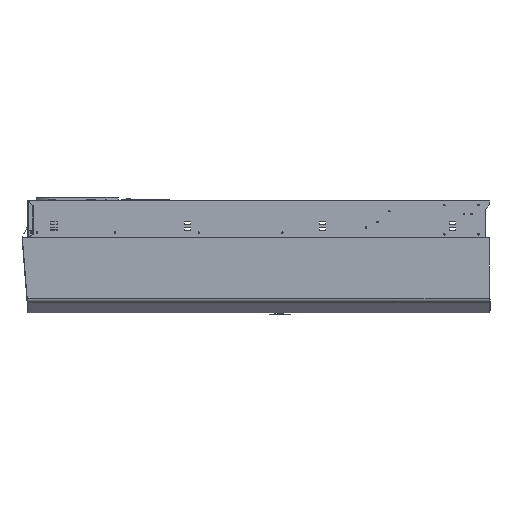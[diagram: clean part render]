
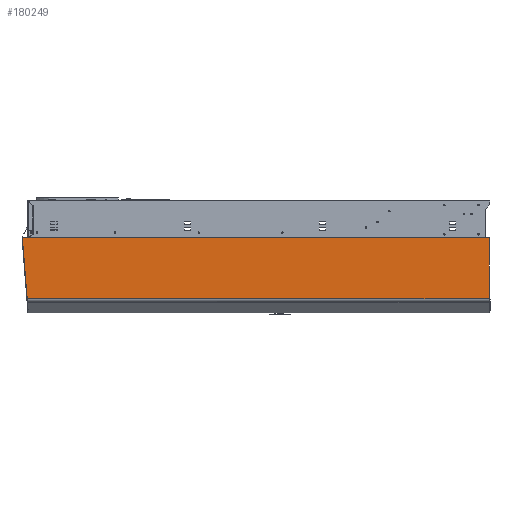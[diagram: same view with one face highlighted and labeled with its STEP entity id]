
A CAD part, left-side view. The second image highlights one B-rep face of the part: STEP entity #180249.
In plain terms, the highlighted planar face has unit normal (-1, 0, 0).
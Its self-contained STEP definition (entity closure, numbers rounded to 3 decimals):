
#273 = LINE ( 'NONE', #214579, #218406 ) ;
#1569 = VERTEX_POINT ( 'NONE', #202060 ) ;
#3257 = VECTOR ( 'NONE', #115427, 1000. ) ;
#16560 = VERTEX_POINT ( 'NONE', #78699 ) ;
#18067 = CARTESIAN_POINT ( 'NONE',  ( -242.471, 762.382, -323.137 ) ) ;
#18857 = EDGE_CURVE ( 'NONE', #155237, #232623, #59367, .T. ) ;
#22707 = DIRECTION ( 'NONE',  ( 0., 1., 0. ) ) ;
#26388 = CARTESIAN_POINT ( 'NONE',  ( -242.471, 778.194, -122.233 ) ) ;
#29367 = ORIENTED_EDGE ( 'NONE', *, *, #131116, .F. ) ;
#30401 = CARTESIAN_POINT ( 'NONE',  ( -242.471, 776.888, -145.195 ) ) ;
#35934 = AXIS2_PLACEMENT_3D ( 'NONE', #236645, #67636, #131416 ) ;
#38484 = FACE_OUTER_BOUND ( 'NONE', #253828, .T. ) ;
#39282 = EDGE_CURVE ( 'NONE', #39911, #1569, #44257, .T. ) ;
#39911 = VERTEX_POINT ( 'NONE', #220038 ) ;
#44257 = LINE ( 'NONE', #30401, #262320 ) ;
#50736 = DIRECTION ( 'NONE',  ( 0., -0.078, -0.997 ) ) ;
#52624 = ORIENTED_EDGE ( 'NONE', *, *, #58785, .F. ) ;
#58785 = EDGE_CURVE ( 'NONE', #39911, #228497, #273, .T. ) ;
#59228 = ORIENTED_EDGE ( 'NONE', *, *, #157009, .F. ) ;
#59367 = LINE ( 'NONE', #241937, #3257 ) ;
#62076 = CARTESIAN_POINT ( 'NONE',  ( -242.471, -757.162, -122.233 ) ) ;
#66486 = EDGE_CURVE ( 'NONE', #16560, #230008, #84592, .T. ) ;
#67636 = DIRECTION ( 'NONE',  ( 1., 0., 0. ) ) ;
#74568 = VERTEX_POINT ( 'NONE', #26388 ) ;
#78699 = CARTESIAN_POINT ( 'NONE',  ( -242.471, 776.39, -145.156 ) ) ;
#84592 = LINE ( 'NONE', #91383, #186923 ) ;
#90098 = LINE ( 'NONE', #125308, #189255 ) ;
#91383 = CARTESIAN_POINT ( 'NONE',  ( -242.471, 762.382, -323.137 ) ) ;
#115427 = DIRECTION ( 'NONE',  ( 0., 0., -1. ) ) ;
#116086 = LINE ( 'NONE', #178462, #159023 ) ;
#123420 = CARTESIAN_POINT ( 'NONE',  ( -242.471, 776.782, -140.172 ) ) ;
#125308 = CARTESIAN_POINT ( 'NONE',  ( -242.471, 757.838, -322.853 ) ) ;
#128015 = DIRECTION ( 'NONE',  ( 0., -0.078, -0.997 ) ) ;
#130503 = VECTOR ( 'NONE', #268664, 1000. ) ;
#131116 = EDGE_CURVE ( 'NONE', #16560, #1569, #249436, .T. ) ;
#131416 = DIRECTION ( 'NONE',  ( 0., 0., -1. ) ) ;
#137834 = VECTOR ( 'NONE', #128015, 1000. ) ;
#143182 = CARTESIAN_POINT ( 'NONE',  ( -242.471, 776.39, -145.156 ) ) ;
#152285 = ORIENTED_EDGE ( 'NONE', *, *, #152326, .T. ) ;
#152326 = EDGE_CURVE ( 'NONE', #74568, #228497, #250108, .T. ) ;
#155237 = VERTEX_POINT ( 'NONE', #62076 ) ;
#156852 = ORIENTED_EDGE ( 'NONE', *, *, #39282, .T. ) ;
#157009 = EDGE_CURVE ( 'NONE', #232623, #230008, #90098, .T. ) ;
#159023 = VECTOR ( 'NONE', #199736, 1000. ) ;
#159264 = EDGE_CURVE ( 'NONE', #74568, #155237, #116086, .T. ) ;
#178462 = CARTESIAN_POINT ( 'NONE',  ( -242.471, 757.838, -122.233 ) ) ;
#180249 = ADVANCED_FACE ( 'NONE', ( #38484 ), #261477, .F. ) ;
#186923 = VECTOR ( 'NONE', #217021, 1000. ) ;
#189255 = VECTOR ( 'NONE', #22707, 1000. ) ;
#190602 = CARTESIAN_POINT ( 'NONE',  ( -242.471, 762.405, -322.853 ) ) ;
#191897 = ORIENTED_EDGE ( 'NONE', *, *, #18857, .F. ) ;
#196060 = CARTESIAN_POINT ( 'NONE',  ( -242.471, -757.162, -322.853 ) ) ;
#199736 = DIRECTION ( 'NONE',  ( 0., -1., 0. ) ) ;
#202060 = CARTESIAN_POINT ( 'NONE',  ( -242.471, 776.888, -145.195 ) ) ;
#210944 = DIRECTION ( 'NONE',  ( 0., -0.997, 0.078 ) ) ;
#214579 = CARTESIAN_POINT ( 'NONE',  ( -242.471, 777.28, -140.211 ) ) ;
#217021 = DIRECTION ( 'NONE',  ( 0., -0.078, -0.997 ) ) ;
#218406 = VECTOR ( 'NONE', #210944, 1000. ) ;
#220038 = CARTESIAN_POINT ( 'NONE',  ( -242.471, 777.28, -140.211 ) ) ;
#228497 = VERTEX_POINT ( 'NONE', #123420 ) ;
#230008 = VERTEX_POINT ( 'NONE', #190602 ) ;
#232623 = VERTEX_POINT ( 'NONE', #196060 ) ;
#232955 = ORIENTED_EDGE ( 'NONE', *, *, #66486, .T. ) ;
#236645 = CARTESIAN_POINT ( 'NONE',  ( -242.471, 757.838, -322.853 ) ) ;
#241937 = CARTESIAN_POINT ( 'NONE',  ( -242.471, -757.162, -333.438 ) ) ;
#247867 = ORIENTED_EDGE ( 'NONE', *, *, #159264, .F. ) ;
#249436 = LINE ( 'NONE', #143182, #130503 ) ;
#250108 = LINE ( 'NONE', #18067, #137834 ) ;
#253828 = EDGE_LOOP ( 'NONE', ( #152285, #52624, #156852, #29367, #232955, #59228, #191897, #247867 ) ) ;
#261477 = PLANE ( 'NONE',  #35934 ) ;
#262320 = VECTOR ( 'NONE', #50736, 1000. ) ;
#268664 = DIRECTION ( 'NONE',  ( 0., 0.997, -0.078 ) ) ;
